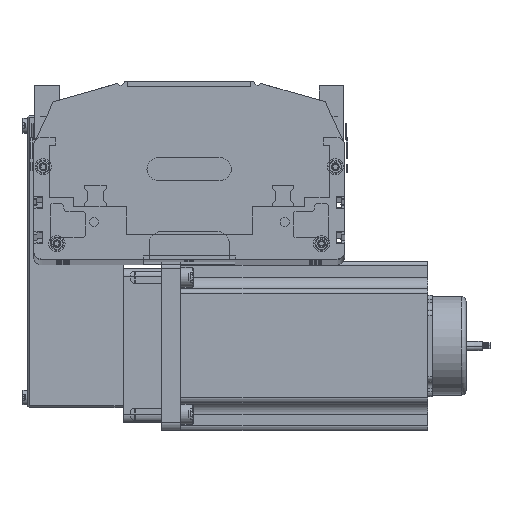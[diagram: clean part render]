
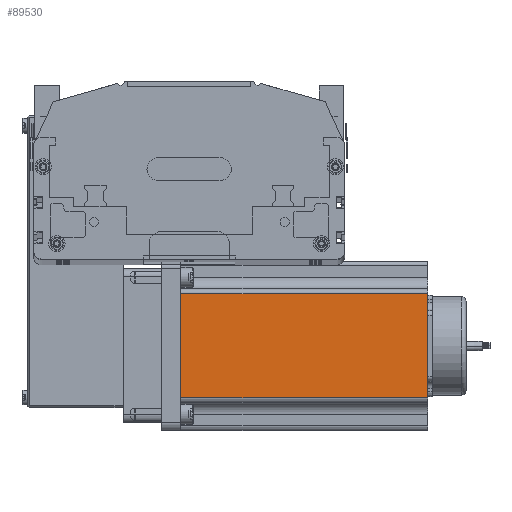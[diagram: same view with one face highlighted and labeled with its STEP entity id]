
A CAD part, top view. The second image highlights one B-rep face of the part: STEP entity #89530.
In plain terms, the highlighted planar face has unit normal (0, 0, 1) as drawn and (0, -1, 0) by its records, which use the part's own axes.
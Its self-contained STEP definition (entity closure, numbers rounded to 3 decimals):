
#63362 = CARTESIAN_POINT ( 'NONE',  ( 21.048, 0., 160.5 ) ) ;
#63458 = CARTESIAN_POINT ( 'NONE',  ( 0., 0., 160.5 ) ) ;
#63477 = FACE_OUTER_BOUND ( 'NONE', #89526, .T. ) ;
#63485 = PLANE ( 'NONE',  #63554 ) ;
#63487 = LINE ( 'NONE', #63545, #63544 ) ;
#63521 = CARTESIAN_POINT ( 'NONE',  ( 88.952, 0., 0. ) ) ;
#63537 = DIRECTION ( 'NONE',  ( 1., 0., 0. ) ) ;
#63538 = VECTOR ( 'NONE', #63537, 1000. ) ;
#63539 = CARTESIAN_POINT ( 'NONE',  ( 0., 0., 0. ) ) ;
#63541 = LINE ( 'NONE', #63539, #63538 ) ;
#63543 = DIRECTION ( 'NONE',  ( 0., 0., 1. ) ) ;
#63544 = VECTOR ( 'NONE', #63543, 1000. ) ;
#63545 = CARTESIAN_POINT ( 'NONE',  ( 88.952, 0., 160.5 ) ) ;
#63546 = CARTESIAN_POINT ( 'NONE',  ( 88.952, 0., 160.5 ) ) ;
#63549 = DIRECTION ( 'NONE',  ( 0., 0., 1. ) ) ;
#63550 = DIRECTION ( 'NONE',  ( 0., 1., 0. ) ) ;
#63554 = AXIS2_PLACEMENT_3D ( 'NONE', #63458, #63550, #63549 ) ;
#63629 = CARTESIAN_POINT ( 'NONE',  ( 21.048, 0., 0. ) ) ;
#63823 = DIRECTION ( 'NONE',  ( 0., 0., -1. ) ) ;
#63825 = VECTOR ( 'NONE', #63823, 1000. ) ;
#63827 = CARTESIAN_POINT ( 'NONE',  ( 21.048, 0., 160.5 ) ) ;
#63829 = LINE ( 'NONE', #63827, #63825 ) ;
#63835 = DIRECTION ( 'NONE',  ( 1., 0., 0. ) ) ;
#63836 = VECTOR ( 'NONE', #63835, 1000. ) ;
#63837 = CARTESIAN_POINT ( 'NONE',  ( 0., 0., 160.5 ) ) ;
#63838 = LINE ( 'NONE', #63837, #63836 ) ;
#89482 = VERTEX_POINT ( 'NONE', #63362 ) ;
#89526 = EDGE_LOOP ( 'NONE', ( #89532, #89531, #89593, #89596 ) ) ;
#89530 = ADVANCED_FACE ( 'NONE', ( #63477 ), #63485, .F. ) ;
#89531 = ORIENTED_EDGE ( 'NONE', *, *, #89533, .T. ) ;
#89532 = ORIENTED_EDGE ( 'NONE', *, *, #89534, .T. ) ;
#89533 = EDGE_CURVE ( 'NONE', #89552, #89537, #63487, .T. ) ;
#89534 = EDGE_CURVE ( 'NONE', #89548, #89552, #63541, .T. ) ;
#89537 = VERTEX_POINT ( 'NONE', #63546 ) ;
#89548 = VERTEX_POINT ( 'NONE', #63629 ) ;
#89552 = VERTEX_POINT ( 'NONE', #63521 ) ;
#89592 = EDGE_CURVE ( 'NONE', #89482, #89537, #63838, .T. ) ;
#89593 = ORIENTED_EDGE ( 'NONE', *, *, #89592, .F. ) ;
#89594 = EDGE_CURVE ( 'NONE', #89482, #89548, #63829, .T. ) ;
#89596 = ORIENTED_EDGE ( 'NONE', *, *, #89594, .T. ) ;
